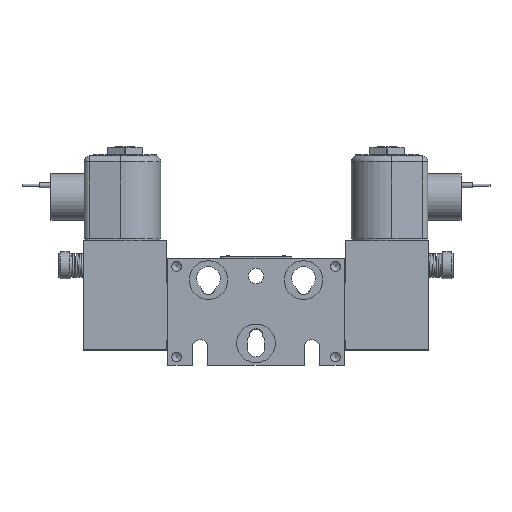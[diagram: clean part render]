
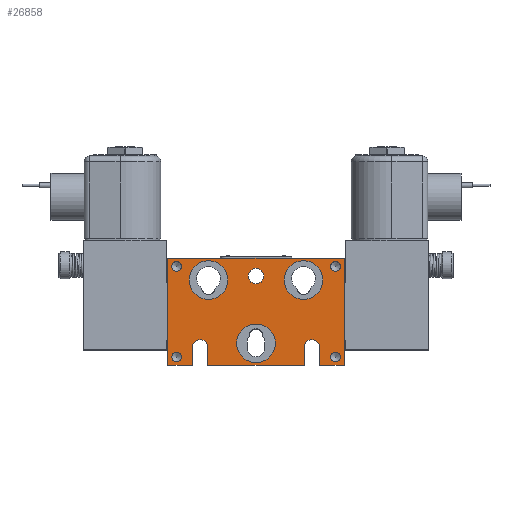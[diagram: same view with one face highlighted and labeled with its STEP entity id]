
A CAD part, top view. The second image highlights one B-rep face of the part: STEP entity #26858.
In plain terms, the highlighted planar face has unit normal (0, 0, 1).
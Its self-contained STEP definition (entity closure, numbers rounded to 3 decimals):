
#863=FACE_BOUND('',#7466,.T.);
#864=FACE_BOUND('',#7467,.T.);
#865=FACE_BOUND('',#7468,.T.);
#866=FACE_BOUND('',#7469,.T.);
#867=FACE_BOUND('',#7470,.T.);
#868=FACE_BOUND('',#7471,.T.);
#869=FACE_BOUND('',#7472,.T.);
#870=FACE_BOUND('',#7473,.T.);
#1506=LINE('',#39186,#3415);
#1516=LINE('',#39226,#3425);
#1523=LINE('',#39248,#3432);
#1617=LINE('',#40123,#3526);
#1619=LINE('',#40127,#3528);
#1622=LINE('',#40135,#3531);
#1624=LINE('',#40139,#3533);
#1626=LINE('',#40143,#3535);
#1629=LINE('',#40151,#3538);
#1631=LINE('',#40154,#3540);
#3415=VECTOR('',#31490,1.);
#3425=VECTOR('',#31524,1.);
#3432=VECTOR('',#31541,1.);
#3526=VECTOR('',#32079,1.);
#3528=VECTOR('',#32083,1.);
#3531=VECTOR('',#32092,1.);
#3533=VECTOR('',#32096,1.);
#3535=VECTOR('',#32100,1.);
#3538=VECTOR('',#32109,1.);
#3540=VECTOR('',#32113,1.);
#5790=FACE_OUTER_BOUND('',#7465,.T.);
#7465=EDGE_LOOP('',(#17467,#17468,#17469,#17470,#17471,#17472,#17473,#17474,
#17475,#17476,#17477,#17478));
#7466=EDGE_LOOP('',(#17479));
#7467=EDGE_LOOP('',(#17480));
#7468=EDGE_LOOP('',(#17481));
#7469=EDGE_LOOP('',(#17482));
#7470=EDGE_LOOP('',(#17483));
#7471=EDGE_LOOP('',(#17484));
#7472=EDGE_LOOP('',(#17485));
#7473=EDGE_LOOP('',(#17486));
#9297=CIRCLE('',#28628,0.417);
#9322=CIRCLE('',#28671,1.031);
#9324=CIRCLE('',#28675,1.031);
#9325=CIRCLE('',#28677,1.031);
#9328=CIRCLE('',#28683,0.258);
#9330=CIRCLE('',#28687,0.258);
#9332=CIRCLE('',#28691,0.258);
#9334=CIRCLE('',#28695,0.258);
#9335=CIRCLE('',#28699,0.417);
#9336=CIRCLE('',#28704,0.417);
#10548=VERTEX_POINT('',#39184);
#10549=VERTEX_POINT('',#39185);
#10567=VERTEX_POINT('',#39225);
#10577=VERTEX_POINT('',#39247);
#10688=VERTEX_POINT('',#39966);
#10721=VERTEX_POINT('',#40068);
#10723=VERTEX_POINT('',#40075);
#10724=VERTEX_POINT('',#40079);
#10728=VERTEX_POINT('',#40091);
#10731=VERTEX_POINT('',#40100);
#10734=VERTEX_POINT('',#40109);
#10737=VERTEX_POINT('',#40118);
#10738=VERTEX_POINT('',#40122);
#10739=VERTEX_POINT('',#40126);
#10740=VERTEX_POINT('',#40130);
#10741=VERTEX_POINT('',#40134);
#10742=VERTEX_POINT('',#40138);
#10743=VERTEX_POINT('',#40142);
#10744=VERTEX_POINT('',#40146);
#10745=VERTEX_POINT('',#40150);
#13025=EDGE_CURVE('',#10548,#10549,#1506,.T.);
#13044=EDGE_CURVE('',#10567,#10548,#1516,.T.);
#13055=EDGE_CURVE('',#10577,#10567,#1523,.T.);
#13219=EDGE_CURVE('',#10688,#10688,#9297,.T.);
#13270=EDGE_CURVE('',#10721,#10721,#9322,.T.);
#13273=EDGE_CURVE('',#10723,#10723,#9324,.T.);
#13275=EDGE_CURVE('',#10724,#10724,#9325,.T.);
#13280=EDGE_CURVE('',#10728,#10728,#9328,.T.);
#13284=EDGE_CURVE('',#10731,#10731,#9330,.T.);
#13288=EDGE_CURVE('',#10734,#10734,#9332,.T.);
#13292=EDGE_CURVE('',#10737,#10737,#9334,.T.);
#13294=EDGE_CURVE('',#10549,#10738,#1617,.T.);
#13296=EDGE_CURVE('',#10738,#10739,#1619,.T.);
#13298=EDGE_CURVE('',#10739,#10740,#9335,.T.);
#13300=EDGE_CURVE('',#10740,#10741,#1622,.T.);
#13302=EDGE_CURVE('',#10741,#10742,#1624,.T.);
#13304=EDGE_CURVE('',#10742,#10743,#1626,.T.);
#13306=EDGE_CURVE('',#10743,#10744,#9336,.T.);
#13308=EDGE_CURVE('',#10744,#10745,#1629,.T.);
#13310=EDGE_CURVE('',#10745,#10577,#1631,.T.);
#17467=ORIENTED_EDGE('',*,*,#13044,.F.);
#17468=ORIENTED_EDGE('',*,*,#13055,.F.);
#17469=ORIENTED_EDGE('',*,*,#13310,.F.);
#17470=ORIENTED_EDGE('',*,*,#13308,.F.);
#17471=ORIENTED_EDGE('',*,*,#13306,.F.);
#17472=ORIENTED_EDGE('',*,*,#13304,.F.);
#17473=ORIENTED_EDGE('',*,*,#13302,.F.);
#17474=ORIENTED_EDGE('',*,*,#13300,.F.);
#17475=ORIENTED_EDGE('',*,*,#13298,.F.);
#17476=ORIENTED_EDGE('',*,*,#13296,.F.);
#17477=ORIENTED_EDGE('',*,*,#13294,.F.);
#17478=ORIENTED_EDGE('',*,*,#13025,.F.);
#17479=ORIENTED_EDGE('',*,*,#13219,.T.);
#17480=ORIENTED_EDGE('',*,*,#13270,.T.);
#17481=ORIENTED_EDGE('',*,*,#13273,.T.);
#17482=ORIENTED_EDGE('',*,*,#13275,.T.);
#17483=ORIENTED_EDGE('',*,*,#13280,.T.);
#17484=ORIENTED_EDGE('',*,*,#13284,.T.);
#17485=ORIENTED_EDGE('',*,*,#13288,.T.);
#17486=ORIENTED_EDGE('',*,*,#13292,.T.);
#24376=PLANE('',#28707);
#26858=ADVANCED_FACE('',(#5790,#863,#864,#865,#866,#867,#868,#869,#870),
#24376,.T.);
#28628=AXIS2_PLACEMENT_3D('',#39967,#31904,#31905);
#28671=AXIS2_PLACEMENT_3D('',#40069,#32016,#32017);
#28675=AXIS2_PLACEMENT_3D('',#40076,#32025,#32026);
#28677=AXIS2_PLACEMENT_3D('',#40080,#32030,#32031);
#28683=AXIS2_PLACEMENT_3D('',#40092,#32044,#32045);
#28687=AXIS2_PLACEMENT_3D('',#40101,#32054,#32055);
#28691=AXIS2_PLACEMENT_3D('',#40110,#32064,#32065);
#28695=AXIS2_PLACEMENT_3D('',#40119,#32074,#32075);
#28699=AXIS2_PLACEMENT_3D('',#40131,#32087,#32088);
#28704=AXIS2_PLACEMENT_3D('',#40147,#32104,#32105);
#28707=AXIS2_PLACEMENT_3D('',#40155,#32114,#32115);
#31490=DIRECTION('',(0.,-1.,0.));
#31524=DIRECTION('',(1.,0.,0.));
#31541=DIRECTION('',(0.,1.,0.));
#31904=DIRECTION('center_axis',(0.,0.,-1.));
#31905=DIRECTION('ref_axis',(1.,0.,0.));
#32016=DIRECTION('center_axis',(0.,0.,-1.));
#32017=DIRECTION('ref_axis',(-1.,0.,0.));
#32025=DIRECTION('center_axis',(0.,0.,-1.));
#32026=DIRECTION('ref_axis',(-1.,0.,0.));
#32030=DIRECTION('center_axis',(0.,0.,-1.));
#32031=DIRECTION('ref_axis',(-1.,0.,0.));
#32044=DIRECTION('center_axis',(0.,0.,-1.));
#32045=DIRECTION('ref_axis',(1.,0.,0.));
#32054=DIRECTION('center_axis',(0.,0.,-1.));
#32055=DIRECTION('ref_axis',(1.,0.,0.));
#32064=DIRECTION('center_axis',(0.,0.,-1.));
#32065=DIRECTION('ref_axis',(1.,0.,0.));
#32074=DIRECTION('center_axis',(0.,0.,-1.));
#32075=DIRECTION('ref_axis',(1.,0.,0.));
#32079=DIRECTION('',(-1.,0.,0.));
#32083=DIRECTION('',(0.,1.,0.));
#32087=DIRECTION('center_axis',(0.,0.,1.));
#32088=DIRECTION('ref_axis',(1.,0.,0.));
#32092=DIRECTION('',(0.,-1.,0.));
#32096=DIRECTION('',(-1.,0.,0.));
#32100=DIRECTION('',(0.,1.,0.));
#32104=DIRECTION('center_axis',(0.,0.,1.));
#32105=DIRECTION('ref_axis',(1.,0.,0.));
#32109=DIRECTION('',(0.,-1.,0.));
#32113=DIRECTION('',(-1.,0.,0.));
#32114=DIRECTION('center_axis',(0.,0.,1.));
#32115=DIRECTION('ref_axis',(1.,0.,0.));
#39184=CARTESIAN_POINT('',(4.712,2.858,1.666));
#39185=CARTESIAN_POINT('',(4.712,-2.858,1.666));
#39186=CARTESIAN_POINT('',(4.712,2.858,1.666));
#39225=CARTESIAN_POINT('',(-4.712,2.858,1.666));
#39226=CARTESIAN_POINT('',(-4.712,2.858,1.666));
#39247=CARTESIAN_POINT('',(-4.712,-2.858,1.666));
#39248=CARTESIAN_POINT('',(-4.712,-2.858,1.666));
#39966=CARTESIAN_POINT('',(-0.417,1.905,1.666));
#39967=CARTESIAN_POINT('Origin',(0.,1.905,1.666));
#40068=CARTESIAN_POINT('',(3.571,1.689,1.666));
#40069=CARTESIAN_POINT('Origin',(2.54,1.689,1.666));
#40075=CARTESIAN_POINT('',(1.031,-1.689,1.666));
#40076=CARTESIAN_POINT('Origin',(0.,-1.689,1.666));
#40079=CARTESIAN_POINT('',(-1.509,1.689,1.666));
#40080=CARTESIAN_POINT('Origin',(-2.54,1.689,1.666));
#40091=CARTESIAN_POINT('',(3.989,-2.421,1.666));
#40092=CARTESIAN_POINT('Origin',(4.247,-2.421,1.666));
#40100=CARTESIAN_POINT('',(-4.502,-2.421,1.666));
#40101=CARTESIAN_POINT('Origin',(-4.244,-2.421,1.666));
#40109=CARTESIAN_POINT('',(3.989,2.421,1.666));
#40110=CARTESIAN_POINT('Origin',(4.247,2.421,1.666));
#40118=CARTESIAN_POINT('',(-4.502,2.421,1.666));
#40119=CARTESIAN_POINT('Origin',(-4.244,2.421,1.666));
#40122=CARTESIAN_POINT('',(3.401,-2.857,1.666));
#40123=CARTESIAN_POINT('',(4.712,-2.858,1.666));
#40126=CARTESIAN_POINT('',(3.401,-1.905,1.666));
#40127=CARTESIAN_POINT('',(3.401,-2.857,1.666));
#40130=CARTESIAN_POINT('',(2.568,-1.905,1.666));
#40131=CARTESIAN_POINT('Origin',(2.985,-1.905,1.666));
#40134=CARTESIAN_POINT('',(2.568,-2.858,1.666));
#40135=CARTESIAN_POINT('',(2.568,-1.905,1.666));
#40138=CARTESIAN_POINT('',(-2.568,-2.858,1.666));
#40139=CARTESIAN_POINT('',(2.568,-2.858,1.666));
#40142=CARTESIAN_POINT('',(-2.568,-1.905,1.666));
#40143=CARTESIAN_POINT('',(-2.568,-2.858,1.666));
#40146=CARTESIAN_POINT('',(-3.401,-1.905,1.666));
#40147=CARTESIAN_POINT('Origin',(-2.985,-1.905,1.666));
#40150=CARTESIAN_POINT('',(-3.401,-2.858,1.666));
#40151=CARTESIAN_POINT('',(-3.401,-1.905,1.666));
#40154=CARTESIAN_POINT('',(-3.401,-2.858,1.666));
#40155=CARTESIAN_POINT('Origin',(0.,-0.247,
1.666));
